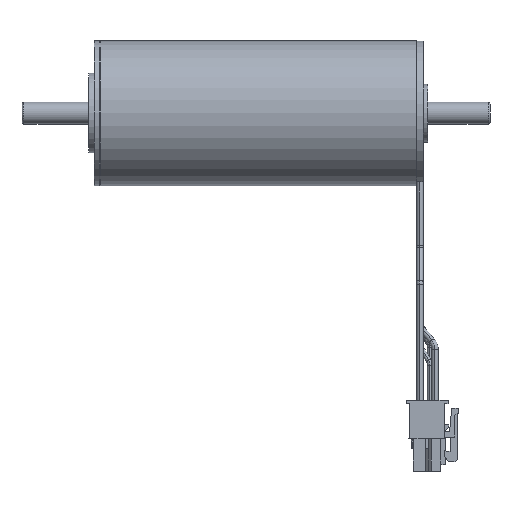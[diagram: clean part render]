
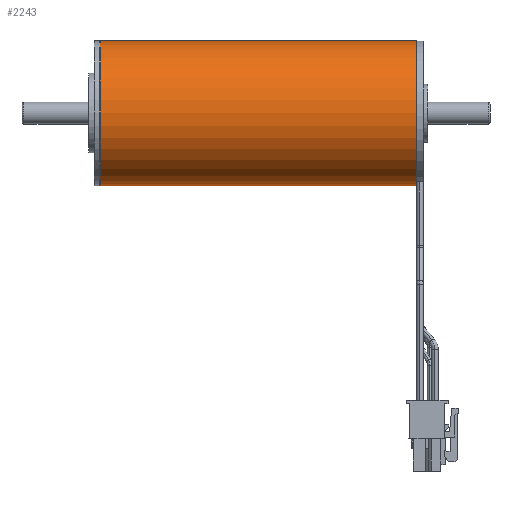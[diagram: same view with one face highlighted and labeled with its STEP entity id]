
A CAD part, top view. The second image highlights one B-rep face of the part: STEP entity #2243.
In plain terms, the highlighted cylindrical face has radius 20 mm (diameter 40 mm), a partial arc.
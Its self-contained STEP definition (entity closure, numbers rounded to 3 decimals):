
#535=DIRECTION('',(-1.,0.,0.));
#536=VECTOR('',#535,87.308);
#537=CARTESIAN_POINT('',(88.9,-20.,0.));
#538=LINE('',#537,#536);
#544=DIRECTION('',(-1.,0.,0.));
#545=VECTOR('',#544,87.308);
#546=CARTESIAN_POINT('',(88.9,20.,0.));
#547=LINE('',#546,#545);
#612=CARTESIAN_POINT('',(1.592,0.,0.));
#613=DIRECTION('',(1.,0.,0.));
#614=DIRECTION('',(0.,1.,0.));
#615=AXIS2_PLACEMENT_3D('',#612,#613,#614);
#617=CARTESIAN_POINT('',(88.9,0.,0.));
#618=DIRECTION('',(1.,0.,0.));
#619=DIRECTION('',(0.,1.,0.));
#620=AXIS2_PLACEMENT_3D('',#617,#618,#619);
#1310=CARTESIAN_POINT('',(1.592,20.,0.));
#1311=CARTESIAN_POINT('',(1.592,-20.,0.));
#1312=VERTEX_POINT('',#1310);
#1313=VERTEX_POINT('',#1311);
#1314=CARTESIAN_POINT('',(88.9,20.,0.));
#1315=CARTESIAN_POINT('',(88.9,-20.,0.));
#1316=VERTEX_POINT('',#1314);
#1317=VERTEX_POINT('',#1315);
#2231=CARTESIAN_POINT('',(-26.465,0.,0.));
#2232=DIRECTION('',(1.,0.,0.));
#2233=DIRECTION('',(0.,-1.,0.));
#2234=AXIS2_PLACEMENT_3D('',#2231,#2232,#2233);
#2235=CYLINDRICAL_SURFACE('',#2234,20.);
#2237=ORIENTED_EDGE('',*,*,#2236,.F.);
#2238=ORIENTED_EDGE('',*,*,#2153,.F.);
#2239=ORIENTED_EDGE('',*,*,#2183,.T.);
#2240=ORIENTED_EDGE('',*,*,#2149,.T.);
#2241=EDGE_LOOP('',(#2237,#2238,#2239,#2240));
#2242=FACE_OUTER_BOUND('',#2241,.F.);
#2243=ADVANCED_FACE('',(#2242),#2235,.T.);
#616=CIRCLE('',#615,20.);
#621=CIRCLE('',#620,20.);
#2149=EDGE_CURVE('',#1317,#1313,#538,.T.);
#2153=EDGE_CURVE('',#1316,#1312,#547,.T.);
#2183=EDGE_CURVE('',#1316,#1317,#621,.T.);
#2236=EDGE_CURVE('',#1312,#1313,#616,.T.);
